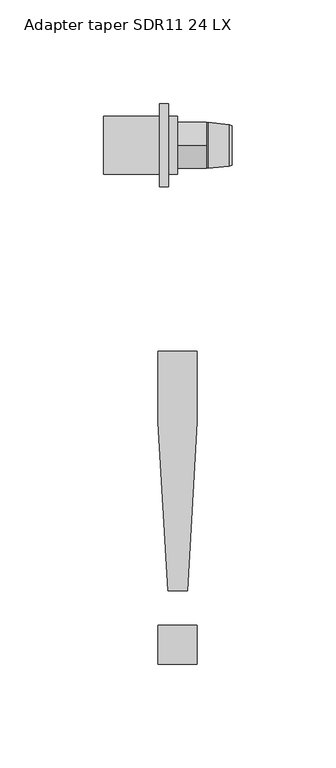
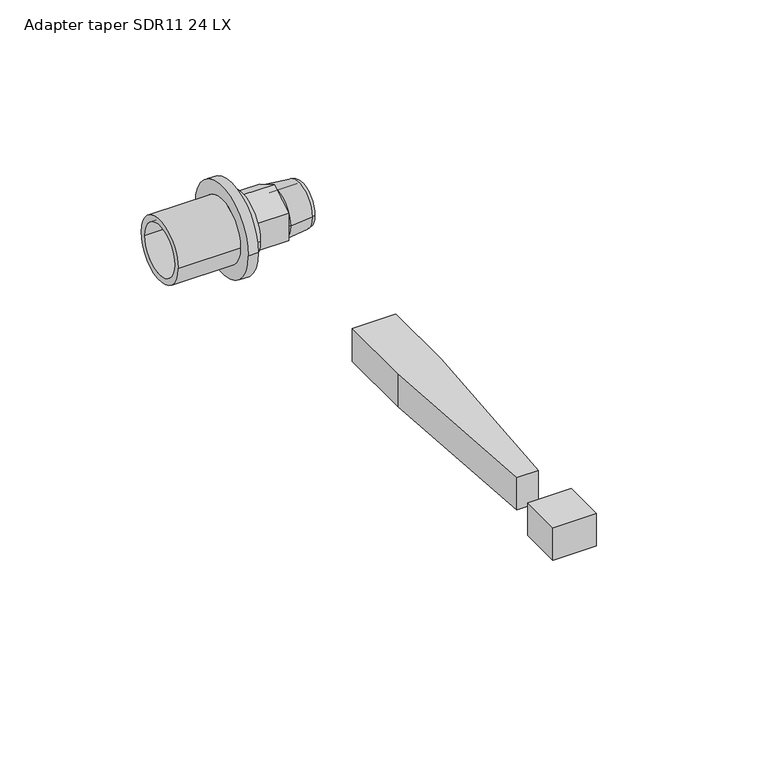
"""IFC4 building model written with IfcOpenShell, lengths in millimetres: pipe fitting geometry, Adapter taper SDR11 LX 24 Grad : Adapter taper SDR11 24 LX."""

from ifc_helpers import new_model, si_unit, frame, origin, origin_with_axes, place, context, project, spatial, polyline, circle_curve, outline, extrude, source, transform, mapped, element, save
from ifc_brep_helpers import plane_surface, cylinder_surface, revolved_surface, advanced_brep


def adapter_taper_sdr11_24_lx_25142bc1(model_context):
    return source(origin(), model_context, "Body", "SolidModel", [
        extrude(outline(polyline([(-4.7088895, -214.6833285), (-9.4177791, -133.3446193), (-9.4177791, -99.3155348), (9.4177791, -99.3155348), (9.4177791, -133.3446193), (4.7088895, -214.6833285), (-4.7088895, -214.6833285)])), origin_with_axes(), (0.0, 0.0, 1.0), 15.0),
        extrude(outline(polyline([(-9.4177791, -250.0), (-9.4177791, -231.1644418), (9.4177791, -231.1644418), (9.4177791, -250.0), (-9.4177791, -250.0)])), origin_with_axes(), (0.0, 0.0, 1.0), 15.0),
        advanced_brep(
        [(-8.7, 13.95, 0.0), (-8.7, -13.95, 0.0), (-35.7, -13.95, 0.0), (-35.7, 13.95, 0.0), (-4.4, 20.0, 0.0), (-4.4, -20.0, 0.0), (-8.7, -20.0, 0.0), (-8.7, 20.0, 0.0), (0.0, 13.95, 0.0), (0.0, -13.95, 0.0), (-4.4, -13.95, 0.0), (-4.4, 13.95, 0.0), (-35.7, 11.2, 0.0), (-35.7, -11.2, 0.0), (0.0, -11.2, 0.0), (0.0, 11.2, 0.0)],
        [
            (0, 1, circle_curve(frame((-8.7, 0.0, 0.0), z_axis=(-1.0, 0.0, 0.0), x_axis=(0.0, -1.0, 0.0)), 13.95)),
            (1, 2),
            (2, 3, circle_curve(frame((-35.7, 0.0, 0.0), z_axis=(1.0, 0.0, 0.0), x_axis=(0.0, -1.0, 0.0)), 13.95)),
            (3, 0),
            (4, 5, circle_curve(frame((-4.4, 0.0, 0.0), z_axis=(-1.0, 0.0, 0.0), x_axis=(0.0, -1.0, 0.0)), 20.0)),
            (5, 6),
            (6, 7, circle_curve(frame((-8.7, 0.0, 0.0), z_axis=(1.0, 0.0, 0.0), x_axis=(0.0, -1.0, 0.0)), 20.0)),
            (7, 4),
            (8, 9, circle_curve(frame((0.0, 0.0, 0.0), z_axis=(-1.0, 0.0, 0.0), x_axis=(0.0, -1.0, 0.0)), 13.95)),
            (9, 10),
            (10, 11, circle_curve(frame((-4.4, 0.0, 0.0), z_axis=(1.0, 0.0, 0.0), x_axis=(0.0, -1.0, 0.0)), 13.95)),
            (11, 8),
            (12, 13, circle_curve(frame((-35.7, 0.0, 0.0), z_axis=(-1.0, 0.0, 0.0), x_axis=(0.0, -1.0, 0.0)), 11.2)),
            (13, 14),
            (14, 15, circle_curve(frame((0.0, 0.0, 0.0), z_axis=(1.0, 0.0, 0.0), x_axis=(0.0, -1.0, 0.0)), 11.2)),
            (15, 12),
            (2, 3, circle_curve(frame((-35.7, 0.0, 0.0), z_axis=(-1.0, 0.0, 0.0), x_axis=(0.0, 1.0, 0.0)), 13.95)),
            (12, 13, circle_curve(frame((-35.7, 0.0, 0.0), z_axis=(1.0, 0.0, 0.0), x_axis=(0.0, 1.0, 0.0)), 11.2)),
            (1, 0, circle_curve(frame((-8.7, 0.0, 0.0), z_axis=(-1.0, 0.0, 0.0), x_axis=(0.0, 1.0, 0.0)), 13.95)),
            (6, 7, circle_curve(frame((-8.7, 0.0, 0.0), z_axis=(-1.0, 0.0, 0.0), x_axis=(0.0, 1.0, 0.0)), 20.0)),
            (5, 4, circle_curve(frame((-4.4, 0.0, 0.0), z_axis=(-1.0, 0.0, 0.0), x_axis=(0.0, 1.0, 0.0)), 20.0)),
            (10, 11, circle_curve(frame((-4.4, 0.0, 0.0), z_axis=(-1.0, 0.0, 0.0), x_axis=(0.0, 1.0, 0.0)), 13.95)),
            (9, 8, circle_curve(frame((0.0, 0.0, 0.0), z_axis=(-1.0, 0.0, 0.0), x_axis=(0.0, 1.0, 0.0)), 13.95)),
            (14, 15, circle_curve(frame((0.0, 0.0, 0.0), z_axis=(-1.0, 0.0, 0.0), x_axis=(0.0, 1.0, 0.0)), 11.2)),
        ],
        [
            cylinder_surface(frame((0.0, 0.0, 0.0), z_axis=(1.0, 0.0, 0.0), x_axis=(0.0, -1.0, 0.0)), 13.95),
            cylinder_surface(frame((0.0, 0.0, 0.0), z_axis=(1.0, 0.0, 0.0), x_axis=(0.0, -1.0, 0.0)), 20.0),
            revolved_surface(polyline([(0.0, -11.2, 0.0), (-35.7, -11.2, 0.0)]), (0.0, 0.0, 0.0), (1.0, 0.0, 0.0)),
            plane_surface(frame((-35.7, 0.0, 0.0), z_axis=(-1.0, 0.0, 0.0), x_axis=(0.0, 1.0, 0.0))),
            cylinder_surface(frame((0.0, 0.0, 0.0), z_axis=(1.0, 0.0, 0.0), x_axis=(0.0, 1.0, 0.0)), 13.95),
            plane_surface(frame((-8.7, 0.0, 0.0), z_axis=(-1.0, 0.0, 0.0), x_axis=(0.0, 1.0, 0.0))),
            cylinder_surface(frame((0.0, 0.0, 0.0), z_axis=(1.0, 0.0, 0.0), x_axis=(0.0, 1.0, 0.0)), 20.0),
            plane_surface(frame((-4.4, 0.0, 0.0), z_axis=(1.0, 0.0, 0.0), x_axis=(0.0, 1.0, 0.0))),
            plane_surface(frame((0.0, 0.0, 0.0), z_axis=(1.0, 0.0, 0.0), x_axis=(0.0, 1.0, 0.0))),
            revolved_surface(polyline([(0.0, 11.2, 0.0), (-35.7, 11.2, 0.0)]), (0.0, 0.0, 0.0), (1.0, 0.0, 0.0)),
        ],
        [
            (0, [[1, 2, 3, 4]]),
            (1, [[5, 6, 7, 8]]),
            (0, [[9, 10, 11, 12]]),
            (2, [[13, 14, 15, 16]]),
            (3, [[17, -3], [18, -13]]),
            (4, [[19, -4, -17, -2]]),
            (5, [[20, -7], [-19, -1]]),
            (6, [[21, -8, -20, -6]]),
            (7, [[-21, -5], [22, -11]]),
            (4, [[23, -12, -22, -10]]),
            (8, [[-23, -9], [24, -15]]),
            (9, [[-18, -16, -24, -14]]),
        ],
    ),
        advanced_brep(
        [(15.1032803, 7.5, 0.0), (15.1032803, -7.5, 0.0), (26.2, -7.5, 0.0), (26.2, 7.5, 0.0), (14.0, 6.3967197, 0.0), (14.0, -6.3967197, 0.0), (14.7406902, 11.0, 0.0), (14.7406902, -11.0, 0.0), (14.0, -10.5, 0.0), (14.0, 10.5, 0.0), (24.7000007, 10.0, 0.0), (24.7000007, -10.0, 0.0), (26.2, 9.5, 0.0), (26.2, -9.5, 0.0)],
        [
            (0, 1, circle_curve(frame((15.1032803, 0.0, 0.0), z_axis=(-1.0, 0.0, 0.0), x_axis=(0.0, -1.0, 0.0)), 7.5)),
            (1, 2),
            (2, 3, circle_curve(frame((26.2, 0.0, 0.0), z_axis=(1.0, 0.0, 0.0), x_axis=(0.0, -1.0, 0.0)), 7.5)),
            (3, 0),
            (4, 5, circle_curve(frame((14.0, 0.0, 0.0), z_axis=(-1.0, 0.0, 0.0), x_axis=(0.0, -1.0, 0.0)), 6.3967197)),
            (5, 1),
            (0, 4),
            (6, 7, circle_curve(frame((14.7406902, 0.0, 0.0), z_axis=(-1.0, 0.0, 0.0), x_axis=(0.0, -1.0, 0.0)), 11.0)),
            (7, 8),
            (8, 9, circle_curve(frame((14.0, 0.0, 0.0), z_axis=(1.0, 0.0, 0.0), x_axis=(0.0, -1.0, 0.0)), 10.5)),
            (9, 6),
            (10, 11, circle_curve(frame((24.7000007, 0.0, 0.0), z_axis=(-1.0, 0.0, 0.0), x_axis=(0.0, -1.0, 0.0)), 10.0)),
            (11, 7),
            (6, 10),
            (12, 13, circle_curve(frame((26.2, 0.0, 0.0), z_axis=(-1.0, 0.0, 0.0), x_axis=(0.0, -1.0, 0.0)), 9.5)),
            (13, 11),
            (10, 12),
            (1, 0, circle_curve(frame((15.1032803, 0.0, 0.0), z_axis=(-1.0, 0.0, 0.0), x_axis=(0.0, 1.0, 0.0)), 7.5)),
            (3, 2, circle_curve(frame((26.2, 0.0, 0.0), z_axis=(1.0, 0.0, 0.0), x_axis=(0.0, 1.0, 0.0)), 7.5)),
            (5, 4, circle_curve(frame((14.0, 0.0, 0.0), z_axis=(-1.0, 0.0, 0.0), x_axis=(0.0, 1.0, 0.0)), 6.3967197)),
            (8, 9, circle_curve(frame((14.0, 0.0, 0.0), z_axis=(-1.0, 0.0, 0.0), x_axis=(0.0, 1.0, 0.0)), 10.5)),
            (7, 6, circle_curve(frame((14.7406902, 0.0, 0.0), z_axis=(-1.0, 0.0, 0.0), x_axis=(0.0, 1.0, 0.0)), 11.0)),
            (11, 10, circle_curve(frame((24.7000007, 0.0, 0.0), z_axis=(-1.0, 0.0, 0.0), x_axis=(0.0, 1.0, 0.0)), 10.0)),
            (13, 12, circle_curve(frame((26.2, 0.0, 0.0), z_axis=(-1.0, 0.0, 0.0), x_axis=(0.0, 1.0, 0.0)), 9.5)),
        ],
        [
            revolved_surface(polyline([(26.2, -7.5, 0.0), (15.1032803, -7.5, 0.0)]), (0.0, 0.0, 0.0), (1.0, 0.0, 0.0)),
            revolved_surface(polyline([(15.1032803, -7.5, 0.0), (14.0, -6.3967197, 0.0)]), (0.0, 0.0, 0.0), (1.0, 0.0, 0.0)),
            revolved_surface(polyline([(14.0, -10.5, 0.0), (14.7406902, -11.0, 0.0)]), (0.0, 0.0, 0.0), (1.0, 0.0, 0.0)),
            revolved_surface(polyline([(14.7406902, -11.0, 0.0), (24.7000007, -10.0, 0.0)]), (0.0, 0.0, 0.0), (1.0, 0.0, 0.0)),
            revolved_surface(polyline([(24.7000007, -10.0, 0.0), (26.2, -9.5, 0.0)]), (0.0, 0.0, 0.0), (1.0, 0.0, 0.0)),
            revolved_surface(polyline([(26.2, 7.5, 0.0), (15.1032803, 7.5, 0.0)]), (0.0, 0.0, 0.0), (1.0, 0.0, 0.0)),
            revolved_surface(polyline([(15.1032803, 7.5, 0.0), (14.0, 6.3967197, 0.0)]), (0.0, 0.0, 0.0), (1.0, 0.0, 0.0)),
            plane_surface(frame((14.0, 0.0, 0.0), z_axis=(-1.0, 0.0, 0.0), x_axis=(0.0, 1.0, 0.0))),
            revolved_surface(polyline([(14.0, 10.5, 0.0), (14.7406902, 11.0, 0.0)]), (0.0, 0.0, 0.0), (1.0, 0.0, 0.0)),
            revolved_surface(polyline([(14.7406902, 11.0, 0.0), (24.7000007, 10.0, 0.0)]), (0.0, 0.0, 0.0), (1.0, 0.0, 0.0)),
            revolved_surface(polyline([(24.7000007, 10.0, 0.0), (26.2, 9.5, 0.0)]), (0.0, 0.0, 0.0), (1.0, 0.0, 0.0)),
            plane_surface(frame((26.2, 0.0, 0.0), z_axis=(1.0, 0.0, 0.0), x_axis=(0.0, 1.0, 0.0))),
        ],
        [
            (0, [[1, 2, 3, 4]]),
            (1, [[5, 6, -1, 7]]),
            (2, [[8, 9, 10, 11]]),
            (3, [[12, 13, -8, 14]]),
            (4, [[15, 16, -12, 17]]),
            (5, [[18, -4, 19, -2]]),
            (6, [[20, -7, -18, -6]]),
            (7, [[21, -10], [-20, -5]]),
            (8, [[22, -11, -21, -9]]),
            (9, [[23, -14, -22, -13]]),
            (10, [[24, -17, -23, -16]]),
            (11, [[-24, -15], [-19, -3]]),
        ],
    ),
        extrude(outline(polyline([(-11.0, 6.350853), (0.0, 12.7017059), (11.0, 6.350853), (11.0, -6.350853), (0.0, -12.7017059), (-11.0, -6.350853), (-11.0, 6.350853)])), frame((0.0, 0.0, 0.0), z_axis=(1.0, 0.0, 0.0), x_axis=(0.0, 1.0, 0.0)), (0.0, 0.0, 1.0), 14.0),
    ])


if __name__ == "__main__":
    model = new_model("IFC4")
    model_context = context("Model", 3, world=origin())
    ifc_project = project(units=[si_unit("LENGTHUNIT", "METRE", prefix="MILLI")], contexts=[model_context])
    site = spatial("IfcSite", under=ifc_project)
    building = spatial("IfcBuilding", under=site)
    placement = place(None, origin())
    adapter_taper_sdr11_24_lx_shape = adapter_taper_sdr11_24_lx_25142bc1(model_context)
    element("IfcPipeFitting", 1, ObjectType="Adapter taper SDR11 LX 24 Grad : Adapter taper SDR11 24 LX", at=placement, inside=building, context=model_context, shape_type="MappedRepresentation", body=[
        mapped(adapter_taper_sdr11_24_lx_shape, transform((0.0, 0.0, 0.0), x_axis=(1.0, 0.0, 0.0), y_axis=(0.0, 1.0, 0.0), z_axis=(0.0, 0.0, 1.0))),
    ])
    save(model, "model.ifc")
